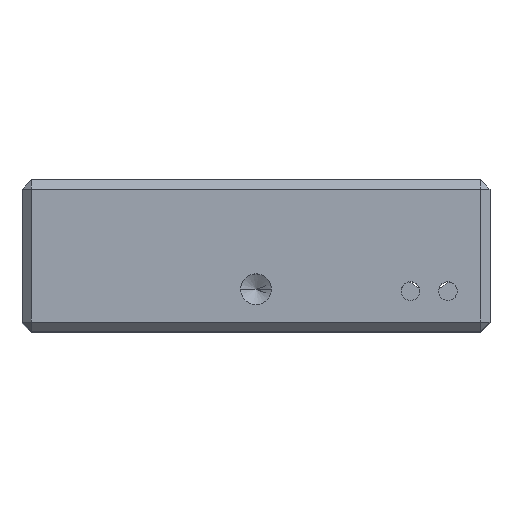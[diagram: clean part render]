
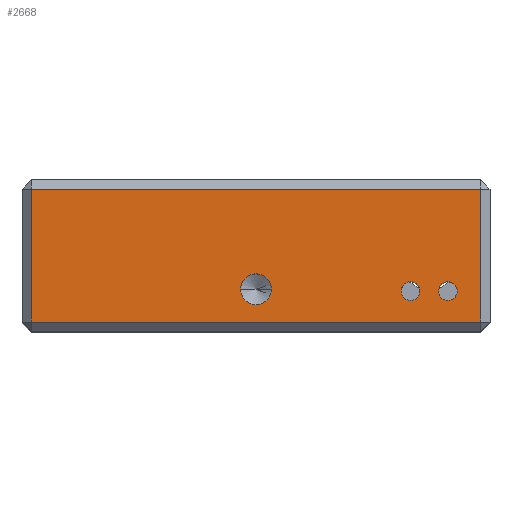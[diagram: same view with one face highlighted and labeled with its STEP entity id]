
A CAD part, top view. The second image highlights one B-rep face of the part: STEP entity #2668.
In plain terms, the highlighted planar face has unit normal (0, 0, 1).
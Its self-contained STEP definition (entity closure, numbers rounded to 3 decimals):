
#25 = VERTEX_POINT ( 'NONE', #3475 ) ;
#32 = ORIENTED_EDGE ( 'NONE', *, *, #1676, .F. ) ;
#36 = LINE ( 'NONE', #4297, #186 ) ;
#98 = VERTEX_POINT ( 'NONE', #403 ) ;
#112 = CARTESIAN_POINT ( 'NONE',  ( 21.5, 4.3, 27. ) ) ;
#139 = EDGE_LOOP ( 'NONE', ( #526, #32 ) ) ;
#186 = VECTOR ( 'NONE', #2128, 1000. ) ;
#226 = CARTESIAN_POINT ( 'NONE',  ( 17.5, 4.3, 27. ) ) ;
#265 = EDGE_CURVE ( 'NONE', #2553, #3983, #1155, .T. ) ;
#296 = DIRECTION ( 'NONE',  ( -1., 0., 0. ) ) ;
#329 = CIRCLE ( 'NONE', #2446, 1. ) ;
#403 = CARTESIAN_POINT ( 'NONE',  ( 24., 15.2, 27. ) ) ;
#526 = ORIENTED_EDGE ( 'NONE', *, *, #1146, .F. ) ;
#528 = CARTESIAN_POINT ( 'NONE',  ( 24., 16.2, 27. ) ) ;
#531 = DIRECTION ( 'NONE',  ( -1., 0., 0. ) ) ;
#644 = EDGE_CURVE ( 'NONE', #4439, #98, #3387, .T. ) ;
#701 = LINE ( 'NONE', #3975, #732 ) ;
#709 = CIRCLE ( 'NONE', #1551, 1. ) ;
#711 = ORIENTED_EDGE ( 'NONE', *, *, #1652, .F. ) ;
#729 = ORIENTED_EDGE ( 'NONE', *, *, #3494, .F. ) ;
#732 = VECTOR ( 'NONE', #1032, 1000. ) ;
#946 = CARTESIAN_POINT ( 'NONE',  ( -24., 15.2, 27. ) ) ;
#991 = VECTOR ( 'NONE', #1252, 1000. ) ;
#1004 = AXIS2_PLACEMENT_3D ( 'NONE', #3390, #3688, #3730 ) ;
#1032 = DIRECTION ( 'NONE',  ( 1., 0., 0. ) ) ;
#1057 = CARTESIAN_POINT ( 'NONE',  ( -25., 15.2, 27. ) ) ;
#1146 = EDGE_CURVE ( 'NONE', #1838, #25, #329, .T. ) ;
#1155 = CIRCLE ( 'NONE', #3561, 1.65 ) ;
#1164 = DIRECTION ( 'NONE',  ( 0., 0., 1. ) ) ;
#1202 = ORIENTED_EDGE ( 'NONE', *, *, #1450, .F. ) ;
#1206 = EDGE_CURVE ( 'NONE', #98, #3744, #2387, .T. ) ;
#1252 = DIRECTION ( 'NONE',  ( 0., 1., 0. ) ) ;
#1272 = EDGE_LOOP ( 'NONE', ( #1202, #711 ) ) ;
#1361 = ORIENTED_EDGE ( 'NONE', *, *, #265, .F. ) ;
#1426 = ORIENTED_EDGE ( 'NONE', *, *, #3105, .T. ) ;
#1450 = EDGE_CURVE ( 'NONE', #4029, #2390, #1702, .T. ) ;
#1551 = AXIS2_PLACEMENT_3D ( 'NONE', #2956, #1164, #4090 ) ;
#1594 = DIRECTION ( 'NONE',  ( 0., 0., 1. ) ) ;
#1652 = EDGE_CURVE ( 'NONE', #2390, #4029, #709, .T. ) ;
#1676 = EDGE_CURVE ( 'NONE', #25, #1838, #3344, .T. ) ;
#1702 = CIRCLE ( 'NONE', #3965, 1. ) ;
#1838 = VERTEX_POINT ( 'NONE', #226 ) ;
#1862 = AXIS2_PLACEMENT_3D ( 'NONE', #3483, #3411, #531 ) ;
#1886 = ORIENTED_EDGE ( 'NONE', *, *, #2788, .T. ) ;
#1902 = CARTESIAN_POINT ( 'NONE',  ( 0., 4.5, 27. ) ) ;
#1906 = CARTESIAN_POINT ( 'NONE',  ( 20.5, 4.3, 27. ) ) ;
#2013 = PLANE ( 'NONE',  #1862 ) ;
#2058 = FACE_BOUND ( 'NONE', #3017, .T. ) ;
#2105 = VERTEX_POINT ( 'NONE', #3553 ) ;
#2128 = DIRECTION ( 'NONE',  ( 0., -1., 0. ) ) ;
#2236 = EDGE_LOOP ( 'NONE', ( #1886, #1426, #2495, #3098 ) ) ;
#2317 = CARTESIAN_POINT ( 'NONE',  ( 16.5, 4.3, 27. ) ) ;
#2387 = LINE ( 'NONE', #1057, #3803 ) ;
#2390 = VERTEX_POINT ( 'NONE', #3075 ) ;
#2446 = AXIS2_PLACEMENT_3D ( 'NONE', #2317, #3800, #3461 ) ;
#2495 = ORIENTED_EDGE ( 'NONE', *, *, #644, .T. ) ;
#2553 = VERTEX_POINT ( 'NONE', #4395 ) ;
#2617 = DIRECTION ( 'NONE',  ( 1., 0., 0. ) ) ;
#2639 = CARTESIAN_POINT ( 'NONE',  ( 0., 4.5, 27. ) ) ;
#2668 = ADVANCED_FACE ( 'NONE', ( #4530, #4158, #3848, #2058 ), #2013, .F. ) ;
#2788 = EDGE_CURVE ( 'NONE', #3744, #2105, #36, .T. ) ;
#2928 = CIRCLE ( 'NONE', #4510, 1.65 ) ;
#2956 = CARTESIAN_POINT ( 'NONE',  ( 20.5, 4.3, 27. ) ) ;
#2970 = DIRECTION ( 'NONE',  ( 0., 0., 1. ) ) ;
#3017 = EDGE_LOOP ( 'NONE', ( #729, #1361 ) ) ;
#3026 = CARTESIAN_POINT ( 'NONE',  ( 1.65, 4.5, 27. ) ) ;
#3050 = CARTESIAN_POINT ( 'NONE',  ( 24., 1., 27. ) ) ;
#3075 = CARTESIAN_POINT ( 'NONE',  ( 19.5, 4.3, 27. ) ) ;
#3098 = ORIENTED_EDGE ( 'NONE', *, *, #1206, .T. ) ;
#3105 = EDGE_CURVE ( 'NONE', #2105, #4439, #701, .T. ) ;
#3344 = CIRCLE ( 'NONE', #1004, 1. ) ;
#3387 = LINE ( 'NONE', #528, #991 ) ;
#3390 = CARTESIAN_POINT ( 'NONE',  ( 16.5, 4.3, 27. ) ) ;
#3411 = DIRECTION ( 'NONE',  ( 0., 0., -1. ) ) ;
#3461 = DIRECTION ( 'NONE',  ( 1., 0., 0. ) ) ;
#3475 = CARTESIAN_POINT ( 'NONE',  ( 15.5, 4.3, 27. ) ) ;
#3483 = CARTESIAN_POINT ( 'NONE',  ( -25., 16.2, 27. ) ) ;
#3494 = EDGE_CURVE ( 'NONE', #3983, #2553, #2928, .T. ) ;
#3553 = CARTESIAN_POINT ( 'NONE',  ( -24., 1., 27. ) ) ;
#3561 = AXIS2_PLACEMENT_3D ( 'NONE', #1902, #1594, #4403 ) ;
#3688 = DIRECTION ( 'NONE',  ( 0., 0., 1. ) ) ;
#3730 = DIRECTION ( 'NONE',  ( 1., 0., 0. ) ) ;
#3744 = VERTEX_POINT ( 'NONE', #946 ) ;
#3800 = DIRECTION ( 'NONE',  ( 0., 0., 1. ) ) ;
#3803 = VECTOR ( 'NONE', #296, 1000. ) ;
#3848 = FACE_BOUND ( 'NONE', #1272, .T. ) ;
#3965 = AXIS2_PLACEMENT_3D ( 'NONE', #1906, #2970, #4056 ) ;
#3975 = CARTESIAN_POINT ( 'NONE',  ( -25., 1., 27. ) ) ;
#3983 = VERTEX_POINT ( 'NONE', #3026 ) ;
#4029 = VERTEX_POINT ( 'NONE', #112 ) ;
#4056 = DIRECTION ( 'NONE',  ( 1., 0., 0. ) ) ;
#4076 = DIRECTION ( 'NONE',  ( 0., 0., 1. ) ) ;
#4090 = DIRECTION ( 'NONE',  ( 1., 0., 0. ) ) ;
#4158 = FACE_BOUND ( 'NONE', #139, .T. ) ;
#4297 = CARTESIAN_POINT ( 'NONE',  ( -24., 16.2, 27. ) ) ;
#4395 = CARTESIAN_POINT ( 'NONE',  ( -1.65, 4.5, 27. ) ) ;
#4403 = DIRECTION ( 'NONE',  ( 1., 0., 0. ) ) ;
#4439 = VERTEX_POINT ( 'NONE', #3050 ) ;
#4510 = AXIS2_PLACEMENT_3D ( 'NONE', #2639, #4076, #2617 ) ;
#4530 = FACE_OUTER_BOUND ( 'NONE', #2236, .T. ) ;
